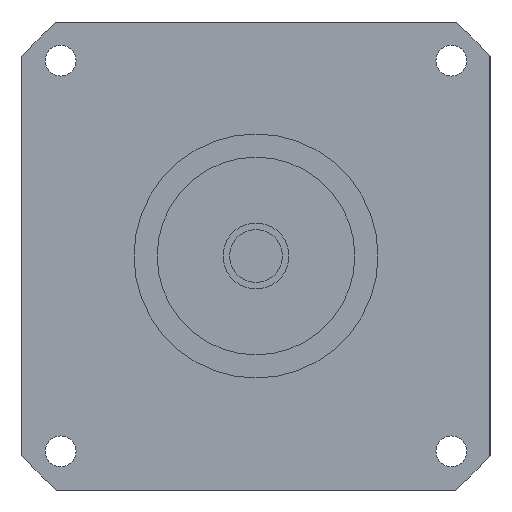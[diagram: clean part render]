
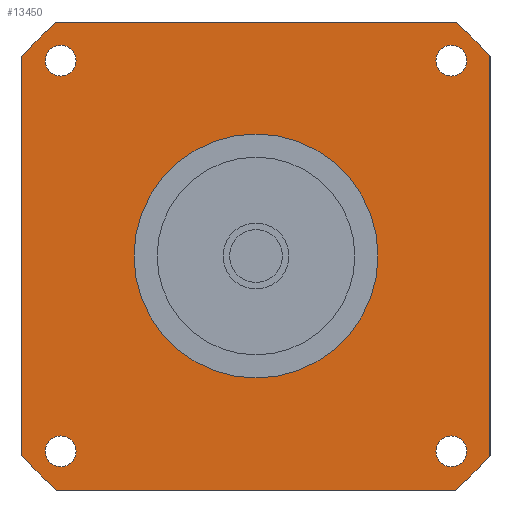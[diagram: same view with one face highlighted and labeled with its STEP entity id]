
A CAD part, left-side view. The second image highlights one B-rep face of the part: STEP entity #13450.
In plain terms, the highlighted planar face has unit normal (-1, 0, 0) as drawn and (0, 0, -1) by its records, which use the part's own axes.
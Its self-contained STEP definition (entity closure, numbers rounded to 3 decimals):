
#8640=CARTESIAN_POINT('',(53.25,45.436,-41.2));
#8650=VERTEX_POINT('',#8640);
#8700=CARTESIAN_POINT('',(53.25,53.25,-41.2));
#8710=DIRECTION('',(0.,-1.,0.));
#8720=VECTOR('',#8710,1000.);
#8730=LINE('',#8700,#8720);
#8740=CARTESIAN_POINT('',(53.25,-45.436,-41.2));
#8750=VERTEX_POINT('',#8740);
#8760=EDGE_CURVE('',#8650,#8750,#8730,.T.);
#9040=CARTESIAN_POINT('',(-45.436,53.25,-41.2));
#9050=VERTEX_POINT('',#9040);
#9230=CARTESIAN_POINT('',(-53.25,45.436,-41.2));
#9240=VERTEX_POINT('',#9230);
#9270=CARTESIAN_POINT('',(0.,0.,
-41.2));
#9280=DIRECTION('',(0.,0.,-1.));
#9290=DIRECTION('',(1.,0.,0.));
#9300=AXIS2_PLACEMENT_3D('',#9270,#9280,#9290);
#9310=CIRCLE('',#9300,70.);
#9320=EDGE_CURVE('',#9240,#9050,#9310,.T.);
#11970=CARTESIAN_POINT('',(-40.949,44.449,-41.2));
#11980=VERTEX_POINT('',#11970);
#12010=CARTESIAN_POINT('',(-44.449,44.449,-41.2));
#12020=DIRECTION('',(0.,0.,-1.));
#12030=DIRECTION('',(-1.,0.,0.));
#12040=AXIS2_PLACEMENT_3D('',#12010,#12020,#12030);
#12050=CIRCLE('',#12040,3.5);
#12060=CARTESIAN_POINT('',(-47.949,44.449,-41.2));
#12070=VERTEX_POINT('',#12060);
#12080=EDGE_CURVE('',#12070,#11980,#12050,.T.);
#12200=CARTESIAN_POINT('',(53.25,53.25,-41.2));
#12210=DIRECTION('',(0.,0.,-1.));
#12220=DIRECTION('',(1.,0.,0.));
#12230=AXIS2_PLACEMENT_3D('',#12200,#12210,#12220);
#12240=PLANE('',#12230);
#12250=ORIENTED_EDGE('',*,*,#12080,.F.);
#12260=EDGE_CURVE('',#11980,#12070,#12050,.T.);
#12270=ORIENTED_EDGE('',*,*,#12260,.F.);
#12280=EDGE_LOOP('',(#12270,#12250));
#12290=FACE_BOUND('',#12280,.T.);
#12300=CARTESIAN_POINT('',(44.449,44.449,-41.2));
#12310=DIRECTION('',(0.,0.,-1.));
#12320=DIRECTION('',(0.,1.,0.));
#12330=AXIS2_PLACEMENT_3D('',#12300,#12310,#12320);
#12340=CIRCLE('',#12330,3.5);
#12350=CARTESIAN_POINT('',(44.449,47.949,-41.2));
#12360=VERTEX_POINT('',#12350);
#12370=CARTESIAN_POINT('',(44.449,40.949,-41.2));
#12380=VERTEX_POINT('',#12370);
#12390=EDGE_CURVE('',#12360,#12380,#12340,.T.);
#12400=ORIENTED_EDGE('',*,*,#12390,.F.);
#12410=EDGE_CURVE('',#12380,#12360,#12340,.T.);
#12420=ORIENTED_EDGE('',*,*,#12410,.F.);
#12430=EDGE_LOOP('',(#12420,#12400));
#12440=FACE_BOUND('',#12430,.T.);
#12450=CARTESIAN_POINT('',(0.,0.,
-41.2));
#12460=DIRECTION('',(0.,0.,1.));
#12470=DIRECTION('',(0.,1.,0.));
#12480=AXIS2_PLACEMENT_3D('',#12450,#12460,#12470);
#12490=CIRCLE('',#12480,27.76);
#12500=CARTESIAN_POINT('',(-27.76,0.,-41.2));
#12510=VERTEX_POINT('',#12500);
#12520=CARTESIAN_POINT('',(27.76,0.,-41.2));
#12530=VERTEX_POINT('',#12520);
#12540=EDGE_CURVE('',#12510,#12530,#12490,.T.);
#12550=ORIENTED_EDGE('',*,*,#12540,.T.);
#12560=CARTESIAN_POINT('',(0.,27.76,-41.2));
#12570=VERTEX_POINT('',#12560);
#12580=EDGE_CURVE('',#12570,#12510,#12490,.T.);
#12590=ORIENTED_EDGE('',*,*,#12580,.T.);
#12600=EDGE_CURVE('',#12530,#12570,#12490,.T.);
#12610=ORIENTED_EDGE('',*,*,#12600,.T.);
#12620=EDGE_LOOP('',(#12610,#12590,#12550));
#12630=FACE_BOUND('',#12620,.T.);
#12640=CARTESIAN_POINT('',(44.449,-44.449,-41.2));
#12650=DIRECTION('',(0.,0.,-1.));
#12660=DIRECTION('',(1.,0.,0.));
#12670=AXIS2_PLACEMENT_3D('',#12640,#12650,#12660);
#12680=CIRCLE('',#12670,3.5);
#12690=CARTESIAN_POINT('',(47.949,-44.449,-41.2));
#12700=VERTEX_POINT('',#12690);
#12710=CARTESIAN_POINT('',(40.949,-44.449,-41.2));
#12720=VERTEX_POINT('',#12710);
#12730=EDGE_CURVE('',#12700,#12720,#12680,.T.);
#12740=ORIENTED_EDGE('',*,*,#12730,.F.);
#12750=EDGE_CURVE('',#12720,#12700,#12680,.T.);
#12760=ORIENTED_EDGE('',*,*,#12750,.F.);
#12770=EDGE_LOOP('',(#12760,#12740));
#12780=FACE_BOUND('',#12770,.T.);
#12790=CARTESIAN_POINT('',(-44.449,-44.449,-41.2));
#12800=DIRECTION('',(0.,0.,-1.));
#12810=DIRECTION('',(0.,-1.,0.));
#12820=AXIS2_PLACEMENT_3D('',#12790,#12800,#12810);
#12830=CIRCLE('',#12820,3.5);
#12840=CARTESIAN_POINT('',(-44.449,-47.949,-41.2));
#12850=VERTEX_POINT('',#12840);
#12860=CARTESIAN_POINT('',(-44.449,-40.949,-41.2));
#12870=VERTEX_POINT('',#12860);
#12880=EDGE_CURVE('',#12850,#12870,#12830,.T.);
#12890=ORIENTED_EDGE('',*,*,#12880,.F.);
#12900=EDGE_CURVE('',#12870,#12850,#12830,.T.);
#12910=ORIENTED_EDGE('',*,*,#12900,.F.);
#12920=EDGE_LOOP('',(#12910,#12890));
#12930=FACE_BOUND('',#12920,.T.);
#12940=CARTESIAN_POINT('',(-53.25,53.25,-41.2));
#12950=DIRECTION('',(1.,0.,0.));
#12960=VECTOR('',#12950,1000.);
#12970=LINE('',#12940,#12960);
#12980=CARTESIAN_POINT('',(45.436,53.25,-41.2));
#12990=VERTEX_POINT('',#12980);
#13000=EDGE_CURVE('',#9050,#12990,#12970,.T.);
#13010=ORIENTED_EDGE('',*,*,#13000,.T.);
#13020=ORIENTED_EDGE('',*,*,#9320,.T.);
#13030=CARTESIAN_POINT('',(-53.25,-53.25,-41.2));
#13040=DIRECTION('',(0.,1.,0.));
#13050=VECTOR('',#13040,1000.);
#13060=LINE('',#13030,#13050);
#13070=CARTESIAN_POINT('',(-53.25,-45.436,-41.2));
#13080=VERTEX_POINT('',#13070);
#13090=EDGE_CURVE('',#13080,#9240,#13060,.T.);
#13100=ORIENTED_EDGE('',*,*,#13090,.T.);
#13110=CARTESIAN_POINT('',(0.,0.,
-41.2));
#13120=DIRECTION('',(0.,0.,-1.));
#13130=DIRECTION('',(1.,0.,0.));
#13140=AXIS2_PLACEMENT_3D('',#13110,#13120,#13130);
#13150=CIRCLE('',#13140,70.);
#13160=CARTESIAN_POINT('',(-45.436,-53.25,-41.2));
#13170=VERTEX_POINT('',#13160);
#13180=EDGE_CURVE('',#13170,#13080,#13150,.T.);
#13190=ORIENTED_EDGE('',*,*,#13180,.T.);
#13200=CARTESIAN_POINT('',(53.25,-53.25,-41.2));
#13210=DIRECTION('',(-1.,0.,0.));
#13220=VECTOR('',#13210,1000.);
#13230=LINE('',#13200,#13220);
#13240=CARTESIAN_POINT('',(45.436,-53.25,-41.2));
#13250=VERTEX_POINT('',#13240);
#13260=EDGE_CURVE('',#13250,#13170,#13230,.T.);
#13270=ORIENTED_EDGE('',*,*,#13260,.T.);
#13280=CARTESIAN_POINT('',(0.,0.,
-41.2));
#13290=DIRECTION('',(0.,0.,-1.));
#13300=DIRECTION('',(1.,0.,0.));
#13310=AXIS2_PLACEMENT_3D('',#13280,#13290,#13300);
#13320=CIRCLE('',#13310,70.);
#13330=EDGE_CURVE('',#8750,#13250,#13320,.T.);
#13340=ORIENTED_EDGE('',*,*,#13330,.T.);
#13350=ORIENTED_EDGE('',*,*,#8760,.T.);
#13360=CARTESIAN_POINT('',(0.,0.,
-41.2));
#13370=DIRECTION('',(0.,0.,-1.));
#13380=DIRECTION('',(1.,0.,0.));
#13390=AXIS2_PLACEMENT_3D('',#13360,#13370,#13380);
#13400=CIRCLE('',#13390,70.);
#13410=EDGE_CURVE('',#12990,#8650,#13400,.T.);
#13420=ORIENTED_EDGE('',*,*,#13410,.T.);
#13430=EDGE_LOOP('',(#13420,#13350,#13340,#13270,#13190,#13100,#13020,
#13010));
#13440=FACE_OUTER_BOUND('',#13430,.T.);
#13450=ADVANCED_FACE('',(#12290,#12440,#12630,#12780,#12930,#13440),
#12240,.T.);
